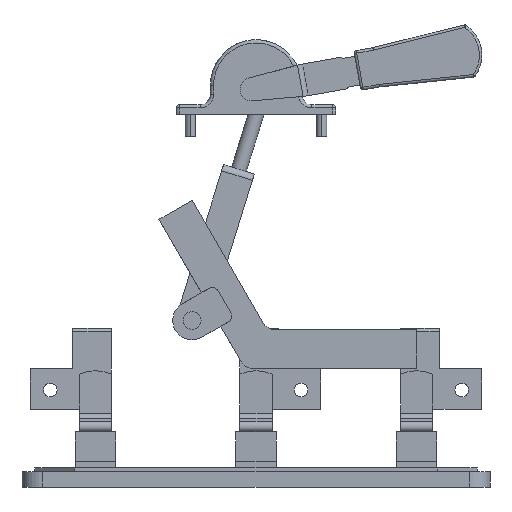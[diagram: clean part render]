
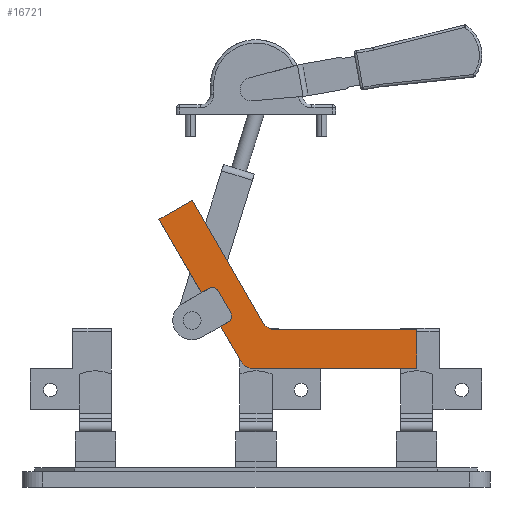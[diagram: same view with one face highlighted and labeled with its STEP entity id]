
A CAD part, left-side view. The second image highlights one B-rep face of the part: STEP entity #16721.
In plain terms, the highlighted planar face has unit normal (-1, 0, 0).
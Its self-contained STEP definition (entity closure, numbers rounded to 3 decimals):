
#152 = CARTESIAN_POINT ( 'NONE',  ( -89., 19.598, 120.445 ) ) ;
#965 = LINE ( 'NONE', #15081, #4640 ) ;
#1463 = VERTEX_POINT ( 'NONE', #8729 ) ;
#1627 = CARTESIAN_POINT ( 'NONE',  ( -89., 49.51, 208.253 ) ) ;
#1799 = VECTOR ( 'NONE', #28734, 1000. ) ;
#2086 = CARTESIAN_POINT ( 'NONE',  ( -89., 29.598, 137.765 ) ) ;
#2238 = CIRCLE ( 'NONE', #13098, 10. ) ;
#2600 = DIRECTION ( 'NONE',  ( 0., 0.866, -0.5 ) ) ;
#2976 = VERTEX_POINT ( 'NONE', #18720 ) ;
#3693 = VERTEX_POINT ( 'NONE', #25923 ) ;
#3977 = VERTEX_POINT ( 'NONE', #27335 ) ;
#4333 = LINE ( 'NONE', #26008, #23107 ) ;
#4352 = DIRECTION ( 'NONE',  ( 1., 0., 0. ) ) ;
#4443 = VECTOR ( 'NONE', #11575, 1000. ) ;
#4605 = CARTESIAN_POINT ( 'NONE',  ( -89., 2.887, 87.5 ) ) ;
#4615 = EDGE_CURVE ( 'NONE', #6297, #16268, #25261, .T. ) ;
#4640 = VECTOR ( 'NONE', #10178, 1000. ) ;
#5492 = AXIS2_PLACEMENT_3D ( 'NONE', #11482, #20719, #15886 ) ;
#5513 = CARTESIAN_POINT ( 'NONE',  ( -89., 36.428, 139.595 ) ) ;
#5605 = EDGE_CURVE ( 'NONE', #3977, #15541, #8666, .T. ) ;
#5896 = ORIENTED_EDGE ( 'NONE', *, *, #8206, .T. ) ;
#6297 = VERTEX_POINT ( 'NONE', #30019 ) ;
#6516 = DIRECTION ( 'NONE',  ( -1., 0., 0. ) ) ;
#6910 = VERTEX_POINT ( 'NONE', #2086 ) ;
#6976 = DIRECTION ( 'NONE',  ( -1., 0., 0. ) ) ;
#7182 = DIRECTION ( 'NONE',  ( 0., 0., 1. ) ) ;
#7327 = LINE ( 'NONE', #10107, #1799 ) ;
#7489 = CARTESIAN_POINT ( 'NONE',  ( -89., 2.887, 77.5 ) ) ;
#8166 = EDGE_CURVE ( 'NONE', #3693, #1463, #9259, .T. ) ;
#8168 = EDGE_CURVE ( 'NONE', #22401, #9114, #21376, .T. ) ;
#8206 = EDGE_CURVE ( 'NONE', #9114, #11737, #2238, .T. ) ;
#8522 = ORIENTED_EDGE ( 'NONE', *, *, #12293, .T. ) ;
#8649 = DIRECTION ( 'NONE',  ( 0., 0.5, 0.866 ) ) ;
#8659 = EDGE_CURVE ( 'NONE', #23449, #27645, #18067, .T. ) ;
#8666 = CIRCLE ( 'NONE', #26908, 5. ) ;
#8729 = CARTESIAN_POINT ( 'NONE',  ( -89., -5.774, 112.5 ) ) ;
#8919 = DIRECTION ( 'NONE',  ( 0., 0., 1. ) ) ;
#9107 = CARTESIAN_POINT ( 'NONE',  ( -89., 75.49, 193.253 ) ) ;
#9114 = VERTEX_POINT ( 'NONE', #15604 ) ;
#9259 = CIRCLE ( 'NONE', #11536, 10. ) ;
#9477 = LINE ( 'NONE', #23106, #19417 ) ;
#9995 = VECTOR ( 'NONE', #8649, 1000. ) ;
#10107 = CARTESIAN_POINT ( 'NONE',  ( -89., 29.598, 137.765 ) ) ;
#10178 = DIRECTION ( 'NONE',  ( 0., -1., 0. ) ) ;
#10207 = CARTESIAN_POINT ( 'NONE',  ( -89., -125., 107.5 ) ) ;
#10211 = DIRECTION ( 'NONE',  ( 0., -0.866, 0.5 ) ) ;
#10331 = ORIENTED_EDGE ( 'NONE', *, *, #15188, .F. ) ;
#10614 = CARTESIAN_POINT ( 'NONE',  ( -89., 23.928, 117.945 ) ) ;
#10648 = ORIENTED_EDGE ( 'NONE', *, *, #4615, .T. ) ;
#11482 = CARTESIAN_POINT ( 'NONE',  ( -89., 33.928, 135.265 ) ) ;
#11536 = AXIS2_PLACEMENT_3D ( 'NONE', #18365, #4352, #20910 ) ;
#11575 = DIRECTION ( 'NONE',  ( 0., -0.5, -0.866 ) ) ;
#11599 = ORIENTED_EDGE ( 'NONE', *, *, #8168, .T. ) ;
#11621 = PLANE ( 'NONE',  #14410 ) ;
#11707 = EDGE_CURVE ( 'NONE', #2976, #27645, #23520, .T. ) ;
#11737 = VERTEX_POINT ( 'NONE', #7489 ) ;
#12293 = EDGE_CURVE ( 'NONE', #21124, #23449, #4333, .T. ) ;
#12518 = VECTOR ( 'NONE', #16824, 1000. ) ;
#12984 = DIRECTION ( 'NONE',  ( -1., 0., 0. ) ) ;
#13098 = AXIS2_PLACEMENT_3D ( 'NONE', #27653, #6516, #8919 ) ;
#13241 = EDGE_CURVE ( 'NONE', #11737, #6297, #965, .T. ) ;
#14225 = ORIENTED_EDGE ( 'NONE', *, *, #8659, .T. ) ;
#14410 = AXIS2_PLACEMENT_3D ( 'NONE', #4605, #6976, #7182 ) ;
#14674 = EDGE_CURVE ( 'NONE', #1463, #21124, #29416, .T. ) ;
#15081 = CARTESIAN_POINT ( 'NONE',  ( -89., 2.887, 77.5 ) ) ;
#15188 = EDGE_CURVE ( 'NONE', #6910, #2976, #15226, .T. ) ;
#15226 = CIRCLE ( 'NONE', #5492, 5. ) ;
#15541 = VERTEX_POINT ( 'NONE', #152 ) ;
#15604 = CARTESIAN_POINT ( 'NONE',  ( -89., 11.547, 82.5 ) ) ;
#15886 = DIRECTION ( 'NONE',  ( 0., 0., -1. ) ) ;
#16037 = ORIENTED_EDGE ( 'NONE', *, *, #17963, .F. ) ;
#16223 = CARTESIAN_POINT ( 'NONE',  ( -89., -125., 77.5 ) ) ;
#16266 = EDGE_CURVE ( 'NONE', #15541, #6910, #7327, .T. ) ;
#16268 = VERTEX_POINT ( 'NONE', #10207 ) ;
#16587 = ORIENTED_EDGE ( 'NONE', *, *, #16266, .F. ) ;
#16721 = ADVANCED_FACE ( 'NONE', ( #21942 ), #11621, .T. ) ;
#16824 = DIRECTION ( 'NONE',  ( 0., 0.866, -0.5 ) ) ;
#17963 = EDGE_CURVE ( 'NONE', #22401, #3977, #27069, .T. ) ;
#18067 = LINE ( 'NONE', #22521, #28296 ) ;
#18365 = CARTESIAN_POINT ( 'NONE',  ( -89., -14.434, 117.5 ) ) ;
#18679 = ORIENTED_EDGE ( 'NONE', *, *, #8166, .T. ) ;
#18720 = CARTESIAN_POINT ( 'NONE',  ( -89., 36.428, 139.595 ) ) ;
#19392 = EDGE_LOOP ( 'NONE', ( #19975, #10331, #16587, #21509, #16037, #11599, #5896, #26816, #10648, #28008, #18679, #28800, #8522, #14225 ) ) ;
#19417 = VECTOR ( 'NONE', #20848, 1000. ) ;
#19868 = DIRECTION ( 'NONE',  ( 0., 0., -1. ) ) ;
#19975 = ORIENTED_EDGE ( 'NONE', *, *, #11707, .F. ) ;
#20271 = DIRECTION ( 'NONE',  ( 0., -0.5, -0.866 ) ) ;
#20719 = DIRECTION ( 'NONE',  ( -1., 0., 0. ) ) ;
#20848 = DIRECTION ( 'NONE',  ( 0., 1., 0. ) ) ;
#20862 = VECTOR ( 'NONE', #10211, 1000. ) ;
#20910 = DIRECTION ( 'NONE',  ( 0., 0., 1. ) ) ;
#21124 = VERTEX_POINT ( 'NONE', #28819 ) ;
#21376 = LINE ( 'NONE', #9107, #4443 ) ;
#21509 = ORIENTED_EDGE ( 'NONE', *, *, #5605, .F. ) ;
#21942 = FACE_OUTER_BOUND ( 'NONE', #19392, .T. ) ;
#22401 = VERTEX_POINT ( 'NONE', #24255 ) ;
#22521 = CARTESIAN_POINT ( 'NONE',  ( -89., 75.49, 193.253 ) ) ;
#22633 = CARTESIAN_POINT ( 'NONE',  ( -89., 75.49, 193.253 ) ) ;
#23106 = CARTESIAN_POINT ( 'NONE',  ( -89., -14.434, 107.5 ) ) ;
#23107 = VECTOR ( 'NONE', #2600, 1000. ) ;
#23449 = VERTEX_POINT ( 'NONE', #22633 ) ;
#23520 = LINE ( 'NONE', #5513, #12518 ) ;
#24150 = VECTOR ( 'NONE', #27987, 1000. ) ;
#24255 = CARTESIAN_POINT ( 'NONE',  ( -89., 27.49, 110.115 ) ) ;
#25261 = LINE ( 'NONE', #16223, #24150 ) ;
#25923 = CARTESIAN_POINT ( 'NONE',  ( -89., -14.434, 107.5 ) ) ;
#26008 = CARTESIAN_POINT ( 'NONE',  ( -89., 75.49, 193.253 ) ) ;
#26542 = CARTESIAN_POINT ( 'NONE',  ( -89., 42.49, 136.095 ) ) ;
#26816 = ORIENTED_EDGE ( 'NONE', *, *, #13241, .T. ) ;
#26908 = AXIS2_PLACEMENT_3D ( 'NONE', #10614, #12984, #19868 ) ;
#27069 = LINE ( 'NONE', #29044, #20862 ) ;
#27335 = CARTESIAN_POINT ( 'NONE',  ( -89., 21.428, 113.615 ) ) ;
#27645 = VERTEX_POINT ( 'NONE', #26542 ) ;
#27653 = CARTESIAN_POINT ( 'NONE',  ( -89., 2.887, 87.5 ) ) ;
#27987 = DIRECTION ( 'NONE',  ( 0., 0., 1. ) ) ;
#28008 = ORIENTED_EDGE ( 'NONE', *, *, #30150, .T. ) ;
#28296 = VECTOR ( 'NONE', #20271, 1000. ) ;
#28734 = DIRECTION ( 'NONE',  ( 0., 0.5, 0.866 ) ) ;
#28800 = ORIENTED_EDGE ( 'NONE', *, *, #14674, .T. ) ;
#28819 = CARTESIAN_POINT ( 'NONE',  ( -89., 49.51, 208.253 ) ) ;
#29044 = CARTESIAN_POINT ( 'NONE',  ( -89., 21.428, 113.615 ) ) ;
#29416 = LINE ( 'NONE', #1627, #9995 ) ;
#30019 = CARTESIAN_POINT ( 'NONE',  ( -89., -125., 77.5 ) ) ;
#30150 = EDGE_CURVE ( 'NONE', #16268, #3693, #9477, .T. ) ;
